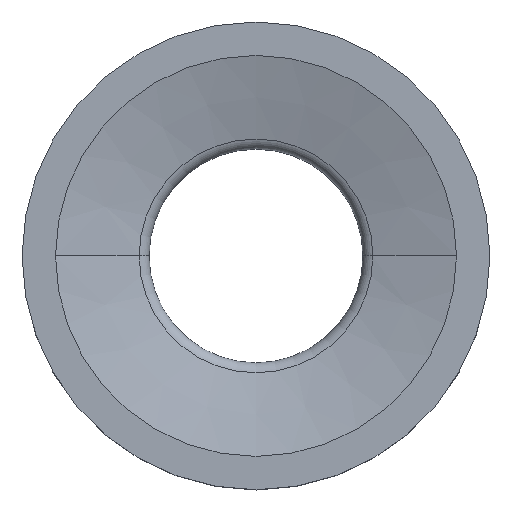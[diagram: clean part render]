
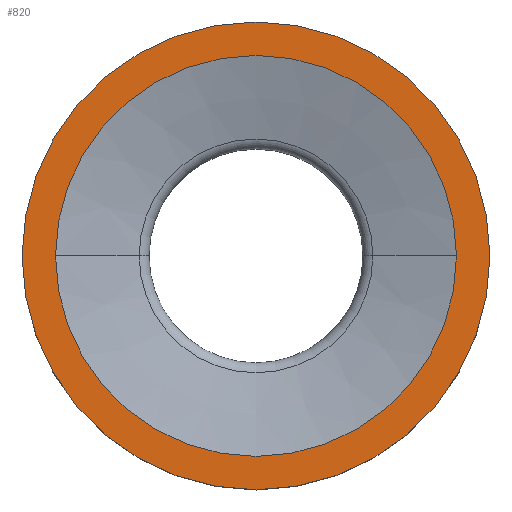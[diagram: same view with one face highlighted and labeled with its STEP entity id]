
A CAD part, top view. The second image highlights one B-rep face of the part: STEP entity #820.
In plain terms, the highlighted planar face has unit normal (0, 0, 1).
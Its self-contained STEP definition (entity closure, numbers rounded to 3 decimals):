
#125=CARTESIAN_POINT('',(0.,0.,20.));
#126=DIRECTION('',(0.,0.,1.));
#127=DIRECTION('',(1.,0.,0.));
#128=AXIS2_PLACEMENT_3D('',#125,#126,#127);
#130=CARTESIAN_POINT('',(0.,0.,20.));
#131=DIRECTION('',(0.,0.,1.));
#132=DIRECTION('',(-1.,0.,0.));
#133=AXIS2_PLACEMENT_3D('',#130,#131,#132);
#135=CARTESIAN_POINT('',(0.,0.,20.));
#136=DIRECTION('',(0.,0.,-1.));
#137=DIRECTION('',(1.,0.,0.));
#138=AXIS2_PLACEMENT_3D('',#135,#136,#137);
#140=CARTESIAN_POINT('',(0.,0.,20.));
#141=DIRECTION('',(0.,0.,-1.));
#142=DIRECTION('',(-1.,0.,0.));
#143=AXIS2_PLACEMENT_3D('',#140,#141,#142);
#515=CARTESIAN_POINT('',(35.,0.,20.));
#516=CARTESIAN_POINT('',(-35.,0.,20.));
#517=VERTEX_POINT('',#515);
#518=VERTEX_POINT('',#516);
#519=CARTESIAN_POINT('',(30.,0.,20.));
#520=CARTESIAN_POINT('',(-30.,0.,20.));
#521=VERTEX_POINT('',#519);
#522=VERTEX_POINT('',#520);
#805=CARTESIAN_POINT('',(0.,0.,20.));
#806=DIRECTION('',(0.,0.,1.));
#807=DIRECTION('',(1.,0.,0.));
#808=AXIS2_PLACEMENT_3D('',#805,#806,#807);
#809=PLANE('',#808);
#811=ORIENTED_EDGE('',*,*,#810,.F.);
#813=ORIENTED_EDGE('',*,*,#812,.F.);
#814=EDGE_LOOP('',(#811,#813));
#815=FACE_OUTER_BOUND('',#814,.F.);
#816=ORIENTED_EDGE('',*,*,#785,.F.);
#817=ORIENTED_EDGE('',*,*,#799,.F.);
#818=EDGE_LOOP('',(#816,#817));
#819=FACE_BOUND('',#818,.F.);
#129=CIRCLE('',#128,35.);
#134=CIRCLE('',#133,35.);
#139=CIRCLE('',#138,30.);
#144=CIRCLE('',#143,30.);
#785=EDGE_CURVE('',#521,#522,#139,.T.);
#799=EDGE_CURVE('',#522,#521,#144,.T.);
#810=EDGE_CURVE('',#517,#518,#129,.T.);
#812=EDGE_CURVE('',#518,#517,#134,.T.);
#820=ADVANCED_FACE('',(#815,#819),#809,.T.);
